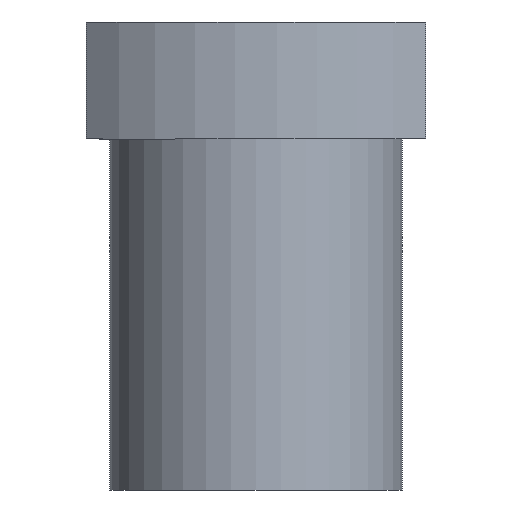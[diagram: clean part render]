
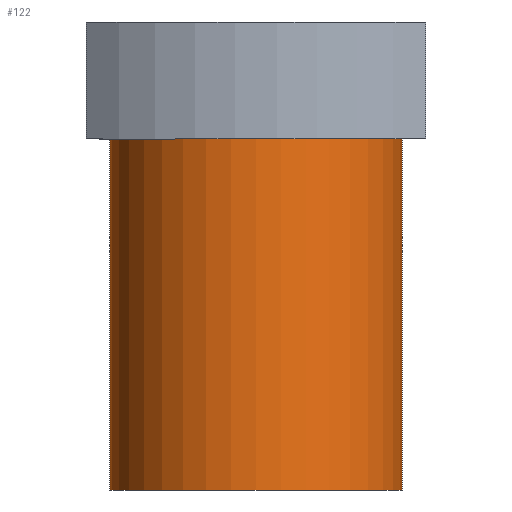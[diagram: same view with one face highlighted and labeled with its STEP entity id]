
A CAD part, front view. The second image highlights one B-rep face of the part: STEP entity #122.
In plain terms, the highlighted cylindrical face has radius 12.5 mm (diameter 25 mm), a partial arc.
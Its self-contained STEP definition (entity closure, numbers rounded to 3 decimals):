
#122=ADVANCED_FACE('',(#252),#253,.T.);
#252=FACE_OUTER_BOUND('',#375,.T.);
#253=CYLINDRICAL_SURFACE('',#376,12.5);
#375=EDGE_LOOP('',(#663,#664,#665,#666));
#376=AXIS2_PLACEMENT_3D('',#667,#668,#669);
#663=ORIENTED_EDGE('',*,*,#679,.T.);
#664=ORIENTED_EDGE('',*,*,#790,.F.);
#665=ORIENTED_EDGE('',*,*,#681,.T.);
#666=ORIENTED_EDGE('',*,*,#787,.T.);
#667=CARTESIAN_POINT('',(0.,0.0,-20.0));
#668=DIRECTION('',(0.,0.0,-1.0));
#669=DIRECTION('',(-1.0,0.0,0.));
#679=EDGE_CURVE('',#793,#794,#795,.T.);
#681=EDGE_CURVE('',#798,#796,#799,.T.);
#787=EDGE_CURVE('',#796,#793,#951,.T.);
#790=EDGE_CURVE('',#798,#794,#954,.T.);
#793=VERTEX_POINT('',#957);
#794=VERTEX_POINT('',#958);
#795=LINE('',#959,#960);
#796=VERTEX_POINT('',#961);
#798=VERTEX_POINT('',#963);
#799=LINE('',#964,#965);
#951=CIRCLE('',#1265,12.5);
#954=CIRCLE('',#1268,12.5);
#957=CARTESIAN_POINT('',(-12.5,0.,-10.0));
#958=CARTESIAN_POINT('',(-12.5,0.0,-40.0));
#959=CARTESIAN_POINT('',(-12.5,0.,-20.0));
#960=VECTOR('',#1270,1.0);
#961=CARTESIAN_POINT('',(12.5,0.,-10.0));
#963=CARTESIAN_POINT('',(12.5,0.,-40.0));
#964=CARTESIAN_POINT('',(12.5,0.,-20.0));
#965=VECTOR('',#1274,1.0);
#1265=AXIS2_PLACEMENT_3D('',#1424,#1425,#1426);
#1268=AXIS2_PLACEMENT_3D('',#1427,#1428,#1429);
#1270=DIRECTION('',(0.,0.0,-1.0));
#1274=DIRECTION('',(0.,-0.0,1.0));
#1424=CARTESIAN_POINT('',(0.,0.0,-10.0));
#1425=DIRECTION('',(0.,0.0,-1.0));
#1426=DIRECTION('',(-1.0,0.0,0.));
#1427=CARTESIAN_POINT('',(0.,0.0,-40.0));
#1428=DIRECTION('',(0.,0.0,-1.0));
#1429=DIRECTION('',(-1.0,0.0,0.));
